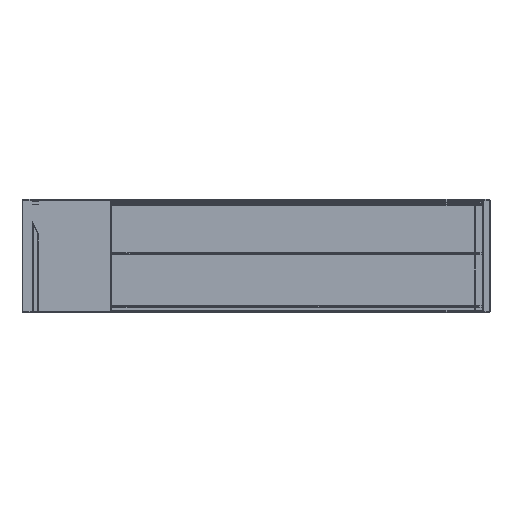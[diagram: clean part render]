
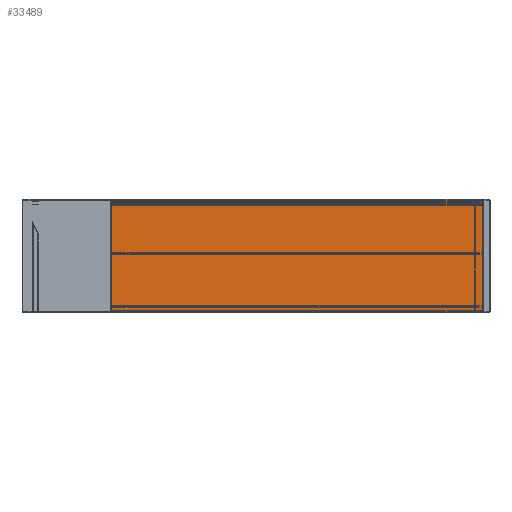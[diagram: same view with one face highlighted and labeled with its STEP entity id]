
A CAD part, front view. The second image highlights one B-rep face of the part: STEP entity #33489.
In plain terms, the highlighted planar face has unit normal (0, -1, 0) as drawn and (-1, 0, 0) by its records, which use the part's own axes.
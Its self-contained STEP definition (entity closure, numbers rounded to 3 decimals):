
#22133=DIRECTION('',(0.,0.,1.));
#22134=VECTOR('',#22133,69.3);
#22135=CARTESIAN_POINT('',(-27.55,-117.5,-3.3));
#22136=LINE('',#22135,#22134);
#26528=DIRECTION('',(0.,0.,1.));
#26529=VECTOR('',#26528,69.3);
#26530=CARTESIAN_POINT('',(-27.55,112.5,-3.3));
#26531=LINE('',#26530,#26529);
#26532=DIRECTION('',(0.,1.,0.));
#26533=VECTOR('',#26532,230.);
#26534=CARTESIAN_POINT('',(-27.55,-117.5,-3.3));
#26535=LINE('',#26534,#26533);
#26541=DIRECTION('',(0.,1.,0.));
#26542=VECTOR('',#26541,230.);
#26543=CARTESIAN_POINT('',(-27.55,-117.5,66.));
#26544=LINE('',#26543,#26542);
#27036=CARTESIAN_POINT('',(-27.55,-117.5,-3.3));
#27037=VERTEX_POINT('',#27036);
#27038=CARTESIAN_POINT('',(-27.55,-117.5,66.));
#27039=VERTEX_POINT('',#27038);
#28244=CARTESIAN_POINT('',(-27.55,112.5,-3.3));
#28245=VERTEX_POINT('',#28244);
#28246=CARTESIAN_POINT('',(-27.55,112.5,66.));
#28247=VERTEX_POINT('',#28246);
#33477=CARTESIAN_POINT('',(-27.55,-117.5,-3.3));
#33478=DIRECTION('',(-1.,0.,0.));
#33479=DIRECTION('',(0.,0.,1.));
#33480=AXIS2_PLACEMENT_3D('',#33477,#33478,#33479);
#33481=PLANE('',#33480);
#33482=ORIENTED_EDGE('',*,*,#28506,.T.);
#33484=ORIENTED_EDGE('',*,*,#33483,.F.);
#33485=ORIENTED_EDGE('',*,*,#28377,.F.);
#33486=ORIENTED_EDGE('',*,*,#33470,.T.);
#33487=EDGE_LOOP('',(#33482,#33484,#33485,#33486));
#33488=FACE_OUTER_BOUND('',#33487,.F.);
#33489=ADVANCED_FACE('',(#33488),#33481,.T.);
#28377=EDGE_CURVE('',#27037,#27039,#22136,.T.);
#28506=EDGE_CURVE('',#28245,#28247,#26531,.T.);
#33470=EDGE_CURVE('',#27037,#28245,#26535,.T.);
#33483=EDGE_CURVE('',#27039,#28247,#26544,.T.);
